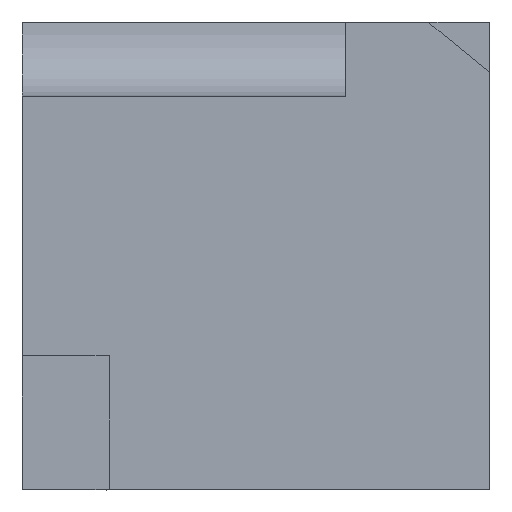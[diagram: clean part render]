
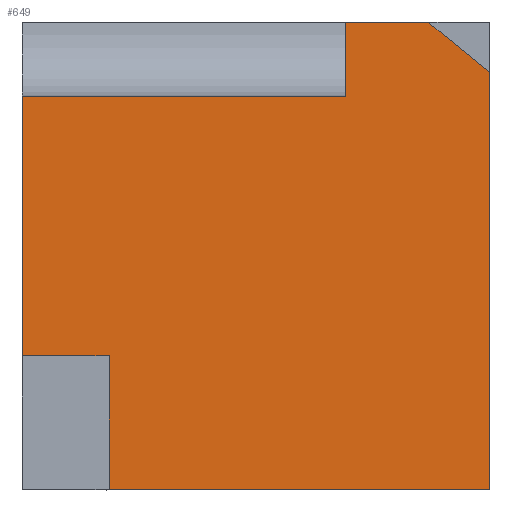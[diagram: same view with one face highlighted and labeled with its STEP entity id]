
A CAD part, top view. The second image highlights one B-rep face of the part: STEP entity #649.
In plain terms, the highlighted planar face has unit normal (0, 0, 1).
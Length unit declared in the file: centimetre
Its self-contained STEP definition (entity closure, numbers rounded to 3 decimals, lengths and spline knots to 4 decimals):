
#22 = ORIENTED_EDGE ( 'NONE', *, *, #775, .T. ) ;
#29 = CARTESIAN_POINT ( 'NONE',  ( 0., 0., 1000. ) ) ;
#31 = CARTESIAN_POINT ( 'NONE',  ( 691.3575, 840.8288, 1000. ) ) ;
#43 = ORIENTED_EDGE ( 'NONE', *, *, #308, .T. ) ;
#45 = VERTEX_POINT ( 'NONE', #564 ) ;
#90 = LINE ( 'NONE', #29, #304 ) ;
#94 = DIRECTION ( 'NONE',  ( 0., -1., 0. ) ) ;
#101 = LINE ( 'NONE', #884, #1034 ) ;
#140 = FACE_OUTER_BOUND ( 'NONE', #941, .T. ) ;
#146 = EDGE_CURVE ( 'NONE', #409, #640, #254, .T. ) ;
#151 = CARTESIAN_POINT ( 'NONE',  ( 185.7198, 286.0062, 1000. ) ) ;
#153 = VERTEX_POINT ( 'NONE', #513 ) ;
#155 = CARTESIAN_POINT ( 'NONE',  ( 1000., 1000., 1000. ) ) ;
#175 = EDGE_CURVE ( 'NONE', #153, #995, #365, .T. ) ;
#180 = AXIS2_PLACEMENT_3D ( 'NONE', #400, #661, #322 ) ;
#198 = ORIENTED_EDGE ( 'NONE', *, *, #175, .T. ) ;
#214 = ORIENTED_EDGE ( 'NONE', *, *, #397, .F. ) ;
#220 = DIRECTION ( 'NONE',  ( 1., 0., 0. ) ) ;
#221 = PLANE ( 'NONE',  #180 ) ;
#222 = EDGE_CURVE ( 'NONE', #577, #640, #619, .T. ) ;
#230 = ORIENTED_EDGE ( 'NONE', *, *, #222, .F. ) ;
#234 = VERTEX_POINT ( 'NONE', #383 ) ;
#254 = LINE ( 'NONE', #155, #290 ) ;
#290 = VECTOR ( 'NONE', #767, 100. ) ;
#304 = VECTOR ( 'NONE', #547, 100. ) ;
#308 = EDGE_CURVE ( 'NONE', #472, #45, #101, .T. ) ;
#311 = CARTESIAN_POINT ( 'NONE',  ( 185.7198, 286.0062, 1000. ) ) ;
#322 = DIRECTION ( 'NONE',  ( 1., 0., 0. ) ) ;
#358 = ORIENTED_EDGE ( 'NONE', *, *, #1080, .F. ) ;
#365 = LINE ( 'NONE', #858, #732 ) ;
#383 = CARTESIAN_POINT ( 'NONE',  ( 185.7198, 0., 1000. ) ) ;
#397 = EDGE_CURVE ( 'NONE', #606, #45, #729, .T. ) ;
#400 = CARTESIAN_POINT ( 'NONE',  ( 0., 0., 1000. ) ) ;
#409 = VERTEX_POINT ( 'NONE', #660 ) ;
#421 = VECTOR ( 'NONE', #1083, 100. ) ;
#472 = VERTEX_POINT ( 'NONE', #627 ) ;
#487 = ORIENTED_EDGE ( 'NONE', *, *, #1112, .T. ) ;
#504 = EDGE_CURVE ( 'NONE', #234, #409, #90, .T. ) ;
#513 = CARTESIAN_POINT ( 'NONE',  ( 691.3575, 1000., 1000. ) ) ;
#547 = DIRECTION ( 'NONE',  ( 1., 0., 0. ) ) ;
#551 = CARTESIAN_POINT ( 'NONE',  ( 867.7616, 1000., 1000. ) ) ;
#564 = CARTESIAN_POINT ( 'NONE',  ( 0., 286.0062, 1000. ) ) ;
#577 = VERTEX_POINT ( 'NONE', #551 ) ;
#582 = DIRECTION ( 'NONE',  ( 0., -1., 0. ) ) ;
#606 = VERTEX_POINT ( 'NONE', #311 ) ;
#607 = CARTESIAN_POINT ( 'NONE',  ( 1000., 892.4007, 1000. ) ) ;
#619 = LINE ( 'NONE', #607, #656 ) ;
#627 = CARTESIAN_POINT ( 'NONE',  ( 0., 840.8288, 1000. ) ) ;
#631 = VECTOR ( 'NONE', #582, 100. ) ;
#638 = LINE ( 'NONE', #992, #1115 ) ;
#640 = VERTEX_POINT ( 'NONE', #907 ) ;
#649 = ADVANCED_FACE ( 'NONE', ( #140 ), #221, .T. ) ;
#656 = VECTOR ( 'NONE', #1050, 100. ) ;
#660 = CARTESIAN_POINT ( 'NONE',  ( 1000., 0., 1000. ) ) ;
#661 = DIRECTION ( 'NONE',  ( 0., 0., 1. ) ) ;
#729 = LINE ( 'NONE', #1089, #421 ) ;
#732 = VECTOR ( 'NONE', #1118, 100. ) ;
#767 = DIRECTION ( 'NONE',  ( 0., 1., 0. ) ) ;
#775 = EDGE_CURVE ( 'NONE', #606, #234, #933, .T. ) ;
#800 = ORIENTED_EDGE ( 'NONE', *, *, #146, .T. ) ;
#858 = CARTESIAN_POINT ( 'NONE',  ( 691.3575, 0., 1000. ) ) ;
#880 = LINE ( 'NONE', #889, #1099 ) ;
#884 = CARTESIAN_POINT ( 'NONE',  ( 0., 1000., 1000. ) ) ;
#889 = CARTESIAN_POINT ( 'NONE',  ( 0., 1000., 1000. ) ) ;
#907 = CARTESIAN_POINT ( 'NONE',  ( 1000., 892.4007, 1000. ) ) ;
#933 = LINE ( 'NONE', #151, #631 ) ;
#941 = EDGE_LOOP ( 'NONE', ( #358, #43, #214, #22, #1020, #800, #230, #487, #198 ) ) ;
#990 = DIRECTION ( 'NONE',  ( -1., 0., 0. ) ) ;
#992 = CARTESIAN_POINT ( 'NONE',  ( 691.3575, 840.8288, 1000. ) ) ;
#995 = VERTEX_POINT ( 'NONE', #31 ) ;
#1020 = ORIENTED_EDGE ( 'NONE', *, *, #504, .T. ) ;
#1034 = VECTOR ( 'NONE', #94, 100. ) ;
#1050 = DIRECTION ( 'NONE',  ( 0.776, -0.631, 0. ) ) ;
#1080 = EDGE_CURVE ( 'NONE', #472, #995, #638, .T. ) ;
#1083 = DIRECTION ( 'NONE',  ( -1., 0., 0. ) ) ;
#1089 = CARTESIAN_POINT ( 'NONE',  ( 0., 286.0062, 1000. ) ) ;
#1099 = VECTOR ( 'NONE', #990, 100. ) ;
#1112 = EDGE_CURVE ( 'NONE', #577, #153, #880, .T. ) ;
#1115 = VECTOR ( 'NONE', #220, 100. ) ;
#1118 = DIRECTION ( 'NONE',  ( 0., -1., 0. ) ) ;
